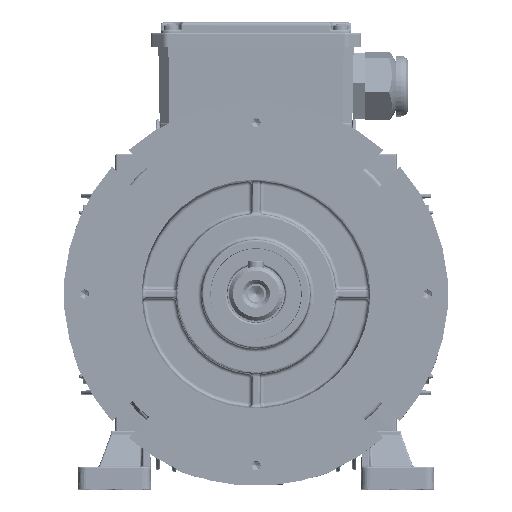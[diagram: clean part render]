
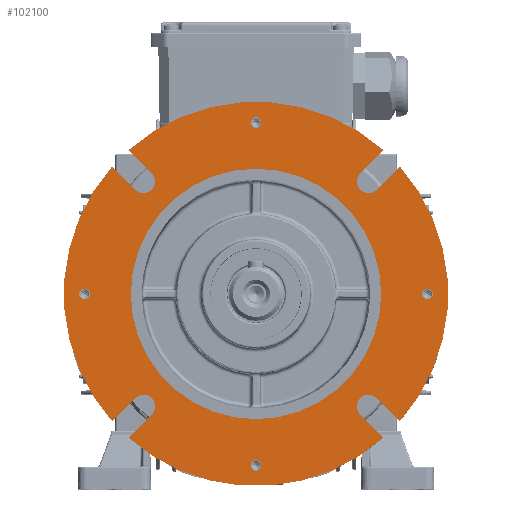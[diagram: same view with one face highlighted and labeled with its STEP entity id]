
A CAD part, top view. The second image highlights one B-rep face of the part: STEP entity #102100.
In plain terms, the highlighted planar face has unit normal (0, 0, 1).
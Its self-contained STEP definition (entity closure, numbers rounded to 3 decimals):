
#77509=LINE('',#465723,#87185);
#77510=LINE('',#465728,#87186);
#77511=LINE('',#465732,#87187);
#77512=LINE('',#465736,#87188);
#77513=LINE('',#465740,#87189);
#77514=LINE('',#465744,#87190);
#77515=LINE('',#465748,#87191);
#77516=LINE('',#465752,#87192);
#87185=VECTOR('',#306575,1.);
#87186=VECTOR('',#306578,1.);
#87187=VECTOR('',#306581,1.);
#87188=VECTOR('',#306584,1.);
#87189=VECTOR('',#306587,1.);
#87190=VECTOR('',#306590,1.);
#87191=VECTOR('',#306593,1.);
#87192=VECTOR('',#306596,1.);
#91059=PLANE('',#258812);
#102100=ADVANCED_FACE('',(#108709,#108710,#108711,#108712,#108713,#108714),
#91059,.F.);
#108709=FACE_BOUND('',#120611,.T.);
#108710=FACE_BOUND('',#120612,.T.);
#108711=FACE_BOUND('',#120613,.T.);
#108712=FACE_BOUND('',#120614,.T.);
#108713=FACE_BOUND('',#120615,.T.);
#108714=FACE_BOUND('',#120616,.T.);
#120611=EDGE_LOOP('',(#171609));
#120612=EDGE_LOOP('',(#171610));
#120613=EDGE_LOOP('',(#171611));
#120614=EDGE_LOOP('',(#171612));
#120615=EDGE_LOOP('',(#171613));
#120616=EDGE_LOOP('',(#171614,#171615,#171616,#171617,#171618,#171619,#171620,
#171621,#171622,#171623,#171624,#171625,#171626,#171627,#171628,#171629));
#171609=ORIENTED_EDGE('',*,*,#219601,.T.);
#171610=ORIENTED_EDGE('',*,*,#219602,.T.);
#171611=ORIENTED_EDGE('',*,*,#219603,.T.);
#171612=ORIENTED_EDGE('',*,*,#219604,.T.);
#171613=ORIENTED_EDGE('',*,*,#219605,.T.);
#171614=ORIENTED_EDGE('',*,*,#219606,.F.);
#171615=ORIENTED_EDGE('',*,*,#219607,.T.);
#171616=ORIENTED_EDGE('',*,*,#219608,.F.);
#171617=ORIENTED_EDGE('',*,*,#219609,.F.);
#171618=ORIENTED_EDGE('',*,*,#219610,.F.);
#171619=ORIENTED_EDGE('',*,*,#219611,.T.);
#171620=ORIENTED_EDGE('',*,*,#219612,.F.);
#171621=ORIENTED_EDGE('',*,*,#219613,.F.);
#171622=ORIENTED_EDGE('',*,*,#219614,.F.);
#171623=ORIENTED_EDGE('',*,*,#219615,.T.);
#171624=ORIENTED_EDGE('',*,*,#219616,.F.);
#171625=ORIENTED_EDGE('',*,*,#219617,.F.);
#171626=ORIENTED_EDGE('',*,*,#219618,.F.);
#171627=ORIENTED_EDGE('',*,*,#219619,.T.);
#171628=ORIENTED_EDGE('',*,*,#219620,.F.);
#171629=ORIENTED_EDGE('',*,*,#219621,.F.);
#192864=VERTEX_POINT('',#465714);
#192865=VERTEX_POINT('',#465716);
#192866=VERTEX_POINT('',#465718);
#192867=VERTEX_POINT('',#465720);
#192868=VERTEX_POINT('',#465722);
#192869=VERTEX_POINT('',#465724);
#192870=VERTEX_POINT('',#465725);
#192871=VERTEX_POINT('',#465727);
#192872=VERTEX_POINT('',#465729);
#192873=VERTEX_POINT('',#465731);
#192874=VERTEX_POINT('',#465733);
#192875=VERTEX_POINT('',#465735);
#192876=VERTEX_POINT('',#465737);
#192877=VERTEX_POINT('',#465739);
#192878=VERTEX_POINT('',#465741);
#192879=VERTEX_POINT('',#465743);
#192880=VERTEX_POINT('',#465745);
#192881=VERTEX_POINT('',#465747);
#192882=VERTEX_POINT('',#465749);
#192883=VERTEX_POINT('',#465751);
#192884=VERTEX_POINT('',#465753);
#219601=EDGE_CURVE('',#192864,#192864,#239019,.T.);
#219602=EDGE_CURVE('',#192865,#192865,#239020,.T.);
#219603=EDGE_CURVE('',#192866,#192866,#239021,.T.);
#219604=EDGE_CURVE('',#192867,#192867,#239022,.T.);
#219605=EDGE_CURVE('',#192868,#192868,#239023,.T.);
#219606=EDGE_CURVE('',#192869,#192870,#77509,.T.);
#219607=EDGE_CURVE('',#192869,#192871,#239024,.T.);
#219608=EDGE_CURVE('',#192872,#192871,#77510,.T.);
#219609=EDGE_CURVE('',#192873,#192872,#239025,.T.);
#219610=EDGE_CURVE('',#192874,#192873,#77511,.T.);
#219611=EDGE_CURVE('',#192874,#192875,#239026,.T.);
#219612=EDGE_CURVE('',#192876,#192875,#77512,.T.);
#219613=EDGE_CURVE('',#192877,#192876,#239027,.T.);
#219614=EDGE_CURVE('',#192878,#192877,#77513,.T.);
#219615=EDGE_CURVE('',#192878,#192879,#239028,.T.);
#219616=EDGE_CURVE('',#192880,#192879,#77514,.T.);
#219617=EDGE_CURVE('',#192881,#192880,#239029,.T.);
#219618=EDGE_CURVE('',#192882,#192881,#77515,.T.);
#219619=EDGE_CURVE('',#192882,#192883,#239030,.T.);
#219620=EDGE_CURVE('',#192884,#192883,#77516,.T.);
#219621=EDGE_CURVE('',#192870,#192884,#239031,.T.);
#239019=CIRCLE('',#258799,2.75);
#239020=CIRCLE('',#258800,2.75);
#239021=CIRCLE('',#258801,2.75);
#239022=CIRCLE('',#258802,2.75);
#239023=CIRCLE('',#258803,65.);
#239024=CIRCLE('',#258804,99.75);
#239025=CIRCLE('',#258805,6.);
#239026=CIRCLE('',#258806,99.75);
#239027=CIRCLE('',#258807,6.);
#239028=CIRCLE('',#258808,99.75);
#239029=CIRCLE('',#258809,6.);
#239030=CIRCLE('',#258810,99.75);
#239031=CIRCLE('',#258811,6.);
#258799=AXIS2_PLACEMENT_3D('',#465713,#306565,#306566);
#258800=AXIS2_PLACEMENT_3D('',#465715,#306567,#306568);
#258801=AXIS2_PLACEMENT_3D('',#465717,#306569,#306570);
#258802=AXIS2_PLACEMENT_3D('',#465719,#306571,#306572);
#258803=AXIS2_PLACEMENT_3D('',#465721,#306573,#306574);
#258804=AXIS2_PLACEMENT_3D('',#465726,#306576,#306577);
#258805=AXIS2_PLACEMENT_3D('',#465730,#306579,#306580);
#258806=AXIS2_PLACEMENT_3D('',#465734,#306582,#306583);
#258807=AXIS2_PLACEMENT_3D('',#465738,#306585,#306586);
#258808=AXIS2_PLACEMENT_3D('',#465742,#306588,#306589);
#258809=AXIS2_PLACEMENT_3D('',#465746,#306591,#306592);
#258810=AXIS2_PLACEMENT_3D('',#465750,#306594,#306595);
#258811=AXIS2_PLACEMENT_3D('',#465754,#306597,#306598);
#258812=AXIS2_PLACEMENT_3D('',#465755,#306599,#306600);
#306565=DIRECTION('',(0.,0.,-1.));
#306566=DIRECTION('',(1.,0.,0.));
#306567=DIRECTION('',(0.,0.,-1.));
#306568=DIRECTION('',(1.,0.,0.));
#306569=DIRECTION('',(0.,0.,-1.));
#306570=DIRECTION('',(1.,0.,0.));
#306571=DIRECTION('',(0.,0.,-1.));
#306572=DIRECTION('',(1.,0.,0.));
#306573=DIRECTION('',(0.,0.,-1.));
#306574=DIRECTION('',(-1.,0.,0.));
#306575=DIRECTION('',(-0.707,0.707,0.));
#306576=DIRECTION('',(0.,0.,1.));
#306577=DIRECTION('',(-1.,0.,0.));
#306578=DIRECTION('',(0.707,0.707,0.));
#306579=DIRECTION('',(0.,0.,1.));
#306580=DIRECTION('',(0.,-1.,0.));
#306581=DIRECTION('',(-0.707,-0.707,0.));
#306582=DIRECTION('',(0.,0.,1.));
#306583=DIRECTION('',(-1.,0.,0.));
#306584=DIRECTION('',(-0.707,0.707,0.));
#306585=DIRECTION('',(0.,0.,1.));
#306586=DIRECTION('',(1.,0.,0.));
#306587=DIRECTION('',(0.707,-0.707,0.));
#306588=DIRECTION('',(0.,0.,1.));
#306589=DIRECTION('',(-1.,0.,0.));
#306590=DIRECTION('',(-0.707,-0.707,0.));
#306591=DIRECTION('',(0.,0.,1.));
#306592=DIRECTION('',(0.,1.,0.));
#306593=DIRECTION('',(0.707,0.707,0.));
#306594=DIRECTION('',(0.,0.,1.));
#306595=DIRECTION('',(-1.,0.,0.));
#306596=DIRECTION('',(0.707,-0.707,0.));
#306597=DIRECTION('',(0.,0.,1.));
#306598=DIRECTION('',(-1.,0.,0.));
#306599=DIRECTION('',(0.,0.,-1.));
#306600=DIRECTION('',(1.,0.,0.));
#465713=CARTESIAN_POINT('',(-89.,0.,16.));
#465714=CARTESIAN_POINT('',(-86.25,0.,16.));
#465715=CARTESIAN_POINT('',(0.,-89.,16.));
#465716=CARTESIAN_POINT('',(2.75,-89.,16.));
#465717=CARTESIAN_POINT('',(0.,89.,16.));
#465718=CARTESIAN_POINT('',(2.75,89.,16.));
#465719=CARTESIAN_POINT('',(89.,0.,16.));
#465720=CARTESIAN_POINT('',(91.75,0.,16.));
#465721=CARTESIAN_POINT('',(0.,0.,16.));
#465722=CARTESIAN_POINT('',(-65.,0.,16.));
#465723=CARTESIAN_POINT('',(77.49,-69.004,16.));
#465724=CARTESIAN_POINT('',(74.649,-66.164,16.));
#465725=CARTESIAN_POINT('',(62.579,-54.094,16.));
#465726=CARTESIAN_POINT('',(0.,0.,16.));
#465727=CARTESIAN_POINT('',(74.649,66.164,16.));
#465728=CARTESIAN_POINT('',(62.579,54.094,16.));
#465729=CARTESIAN_POINT('',(62.579,54.094,16.));
#465730=CARTESIAN_POINT('',(58.336,58.336,16.));
#465731=CARTESIAN_POINT('',(54.094,62.579,16.));
#465732=CARTESIAN_POINT('',(69.004,77.49,16.));
#465733=CARTESIAN_POINT('',(66.164,74.649,16.));
#465734=CARTESIAN_POINT('',(0.,0.,16.));
#465735=CARTESIAN_POINT('',(-66.164,74.649,16.));
#465736=CARTESIAN_POINT('',(-54.094,62.579,16.));
#465737=CARTESIAN_POINT('',(-54.094,62.579,16.));
#465738=CARTESIAN_POINT('',(-58.336,58.336,16.));
#465739=CARTESIAN_POINT('',(-62.579,54.094,16.));
#465740=CARTESIAN_POINT('',(-77.49,69.004,16.));
#465741=CARTESIAN_POINT('',(-74.649,66.164,16.));
#465742=CARTESIAN_POINT('',(0.,0.,16.));
#465743=CARTESIAN_POINT('',(-74.649,-66.164,16.));
#465744=CARTESIAN_POINT('',(-62.579,-54.094,16.));
#465745=CARTESIAN_POINT('',(-62.579,-54.094,16.));
#465746=CARTESIAN_POINT('',(-58.336,-58.336,16.));
#465747=CARTESIAN_POINT('',(-54.094,-62.579,16.));
#465748=CARTESIAN_POINT('',(-69.004,-77.49,16.));
#465749=CARTESIAN_POINT('',(-66.164,-74.649,16.));
#465750=CARTESIAN_POINT('',(0.,0.,16.));
#465751=CARTESIAN_POINT('',(66.164,-74.649,16.));
#465752=CARTESIAN_POINT('',(54.094,-62.579,16.));
#465753=CARTESIAN_POINT('',(54.094,-62.579,16.));
#465754=CARTESIAN_POINT('',(58.336,-58.336,16.));
#465755=CARTESIAN_POINT('',(0.,0.,16.));
